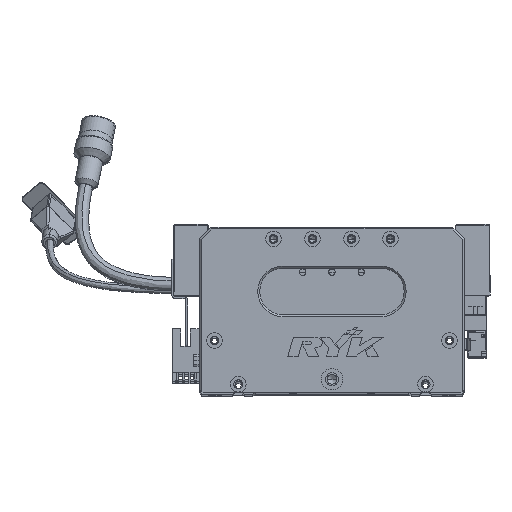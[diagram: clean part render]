
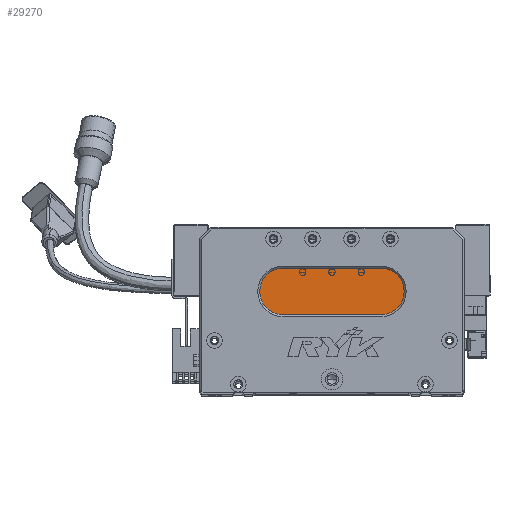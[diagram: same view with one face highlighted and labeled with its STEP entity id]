
A CAD part, top view. The second image highlights one B-rep face of the part: STEP entity #29270.
In plain terms, the highlighted planar face has unit normal (0, 0, 1) as drawn and (0, 0, -1) by its records, which use the part's own axes.
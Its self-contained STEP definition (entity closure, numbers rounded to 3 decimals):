
#279 = CARTESIAN_POINT ( 'NONE',  ( 43., 64., 13. ) ) ;
#312 = LINE ( 'NONE', #29626, #41621 ) ;
#511 = AXIS2_PLACEMENT_3D ( 'NONE', #75291, #34377, #5140 ) ;
#5140 = DIRECTION ( 'NONE',  ( -1., 0., 0. ) ) ;
#5531 = CARTESIAN_POINT ( 'NONE',  ( 43., 52., 13. ) ) ;
#6373 = AXIS2_PLACEMENT_3D ( 'NONE', #5531, #39937, #69072 ) ;
#7301 = EDGE_CURVE ( 'NONE', #34372, #70197, #58969, .T. ) ;
#7549 = VERTEX_POINT ( 'NONE', #13732 ) ;
#11245 = VERTEX_POINT ( 'NONE', #38218 ) ;
#13732 = CARTESIAN_POINT ( 'NONE',  ( 43., 40., 13. ) ) ;
#14559 = CARTESIAN_POINT ( 'NONE',  ( 93., 52., 13. ) ) ;
#15531 = VERTEX_POINT ( 'NONE', #59366 ) ;
#17938 = EDGE_CURVE ( 'NONE', #11245, #7549, #67792, .T. ) ;
#18576 = DIRECTION ( 'NONE',  ( 1., 0., 0. ) ) ;
#21113 = ORIENTED_EDGE ( 'NONE', *, *, #7301, .T. ) ;
#24045 = FACE_OUTER_BOUND ( 'NONE', #28827, .T. ) ;
#28317 = ORIENTED_EDGE ( 'NONE', *, *, #17938, .T. ) ;
#28827 = EDGE_LOOP ( 'NONE', ( #48076, #28317, #65394, #21113, #61217 ) ) ;
#29270 = ADVANCED_FACE ( 'NONE', ( #24045 ), #73407, .T. ) ;
#29626 = CARTESIAN_POINT ( 'NONE',  ( 93., 64., 13. ) ) ;
#34372 = VERTEX_POINT ( 'NONE', #54068 ) ;
#34377 = DIRECTION ( 'NONE',  ( 0., 0., -1. ) ) ;
#34663 = EDGE_CURVE ( 'NONE', #15531, #11245, #75266, .T. ) ;
#38218 = CARTESIAN_POINT ( 'NONE',  ( 93., 40., 13. ) ) ;
#38650 = DIRECTION ( 'NONE',  ( -1., 0., 0. ) ) ;
#39602 = EDGE_CURVE ( 'NONE', #70197, #15531, #312, .T. ) ;
#39937 = DIRECTION ( 'NONE',  ( 0., 0., -1. ) ) ;
#41621 = VECTOR ( 'NONE', #18576, 1000. ) ;
#42651 = DIRECTION ( 'NONE',  ( -1., 0., 0. ) ) ;
#44030 = DIRECTION ( 'NONE',  ( 0., 0., -1. ) ) ;
#45019 = CARTESIAN_POINT ( 'NONE',  ( 93., 52., 13. ) ) ;
#48076 = ORIENTED_EDGE ( 'NONE', *, *, #34663, .T. ) ;
#49945 = DIRECTION ( 'NONE',  ( -1., 0., 0. ) ) ;
#51357 = VECTOR ( 'NONE', #42651, 1000. ) ;
#54068 = CARTESIAN_POINT ( 'NONE',  ( 31., 52., 13. ) ) ;
#58969 = CIRCLE ( 'NONE', #6373, 12. ) ;
#59366 = CARTESIAN_POINT ( 'NONE',  ( 93., 64., 13. ) ) ;
#59459 = AXIS2_PLACEMENT_3D ( 'NONE', #45019, #44030, #49945 ) ;
#59550 = CARTESIAN_POINT ( 'NONE',  ( 93., 40., 13. ) ) ;
#61217 = ORIENTED_EDGE ( 'NONE', *, *, #39602, .T. ) ;
#62505 = EDGE_CURVE ( 'NONE', #7549, #34372, #72321, .T. ) ;
#62560 = AXIS2_PLACEMENT_3D ( 'NONE', #14559, #72636, #38650 ) ;
#65394 = ORIENTED_EDGE ( 'NONE', *, *, #62505, .T. ) ;
#67792 = LINE ( 'NONE', #59550, #51357 ) ;
#69072 = DIRECTION ( 'NONE',  ( -1., 0., 0. ) ) ;
#70197 = VERTEX_POINT ( 'NONE', #279 ) ;
#72321 = CIRCLE ( 'NONE', #511, 12. ) ;
#72636 = DIRECTION ( 'NONE',  ( 0., 0., -1. ) ) ;
#73407 = PLANE ( 'NONE',  #62560 ) ;
#75266 = CIRCLE ( 'NONE', #59459, 12. ) ;
#75291 = CARTESIAN_POINT ( 'NONE',  ( 43., 52., 13. ) ) ;
